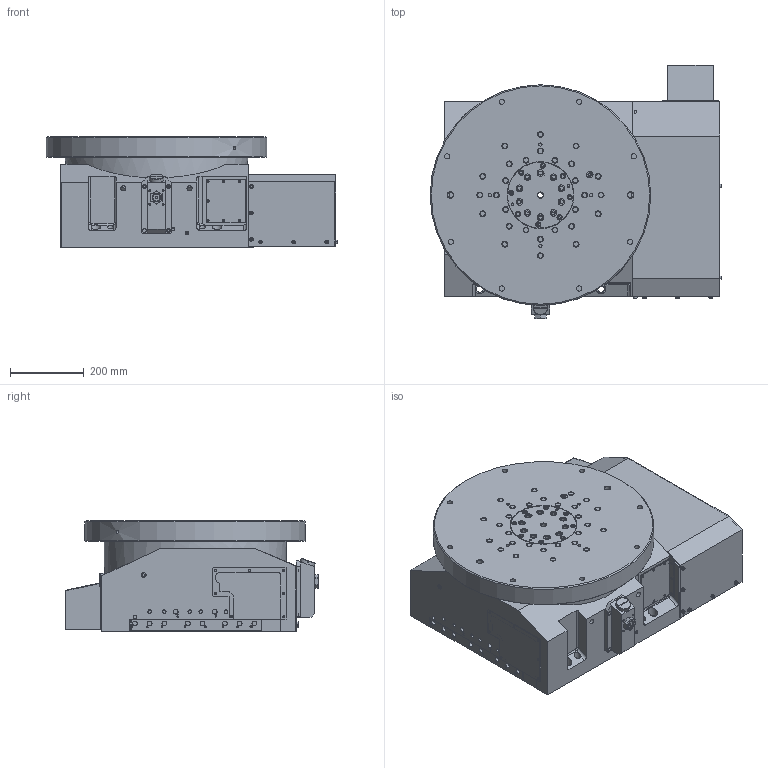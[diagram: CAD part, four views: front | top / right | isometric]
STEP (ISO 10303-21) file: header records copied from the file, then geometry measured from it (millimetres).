
FILE_DESCRIPTION (( 'STEP AP203' ), '1' );
FILE_NAME ('1524483.STEP', '2021-10-12T00:37:44', ( '' ), ( '' ), 'SwSTEP 2.0', 'SolidWorks 2021', '' );
FILE_SCHEMA (( 'CONFIG_CONTROL_DESIGN' ));
Length unit declared in the file: millimetre
Products named in the file (1): 1524483
Bounding box: 793.3 x 689.4 x 300 mm (x, y, z)
Surface area: 2319477.6 mm2 (no closed solid volume)
Topology: 0 solids, 138 shells, 913 faces, 3020 edges, 2231 vertices
Faces by surface type: plane 482, cylinder 279, cone 98, torus 30, bspline 14, sphere 10
Full cylindrical faces by diameter (mm): 4.2 x12, 5 x7, 6 x26, 6.5 x6, 6.8 x4, 7 x17, 8 x11, 8.5 x7, 8.72 x8, 9 x14, 10 x8, 11 x18, 11.75 x1, 11.8 x1, 12.5 x1, 14 x60, 14.5 x1, 16 x4, 18 x15, 19 x2, 23 x2, 25 x1, 26 x2, 40 x1, 50 x1, 60 x1, 66.8 x1, 75 x1, 179.5 x1, 180 x1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
Entity records: 34708 total; most frequent: CARTESIAN_POINT 10015, DIRECTION 4976, ORIENTED_EDGE 3836, EDGE_CURVE 2574, VERTEX_POINT 2159, AXIS2_PLACEMENT_3D 1807, EDGE_LOOP 1698, VECTOR 1362
